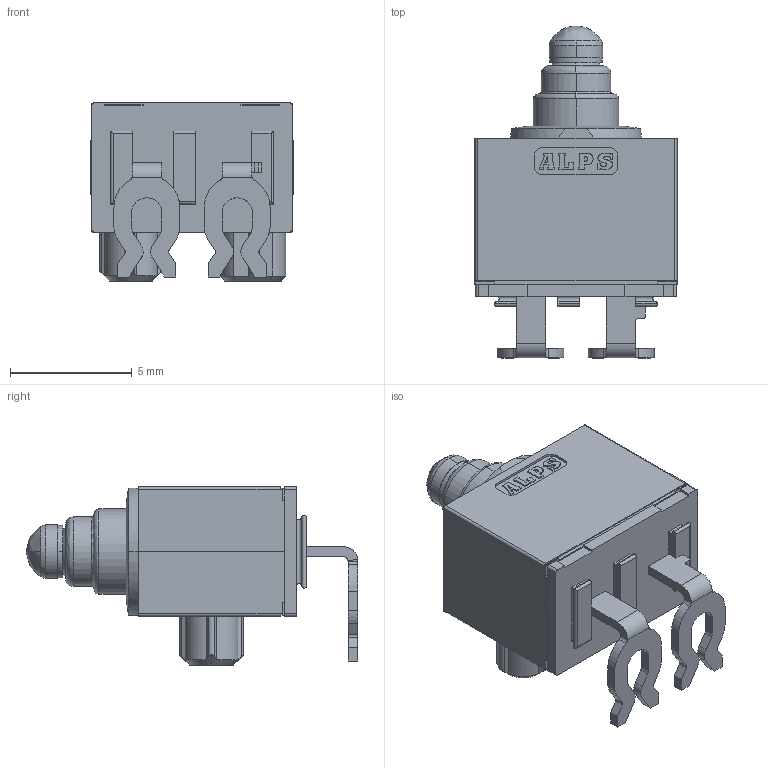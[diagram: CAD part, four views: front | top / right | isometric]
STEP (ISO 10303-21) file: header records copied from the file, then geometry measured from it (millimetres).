
FILE_DESCRIPTION (( 'STEP AP214' ), '1' );
FILE_NAME ('SPVQ811006.STEP', '2018-06-20T05:24:18', ( 'user' ), ( '' ), 'SwSTEP 2.0', 'SolidWorks 2017', '' );
FILE_SCHEMA (( 'AUTOMOTIVE_DESIGN' ));
Length unit declared in the file: millimetre
Products named in the file (1): SPVQ811006
Bounding box: 8.3 x 13.61 x 7.3 mm (x, y, z)
Volume: 341.6 mm3; surface area: 424.6 mm2
Topology: 1 solids, 2 shells, 361 faces, 970 edges, 635 vertices
Faces by surface type: plane 201, cylinder 107, bspline 36, cone 17
Entity records: 14165 total; most frequent: CARTESIAN_POINT 4434, ORIENTED_EDGE 1940, DIRECTION 1449, EDGE_CURVE 970, VERTEX_POINT 635, VECTOR 627, LINE 627, AXIS2_PLACEMENT_3D 411
